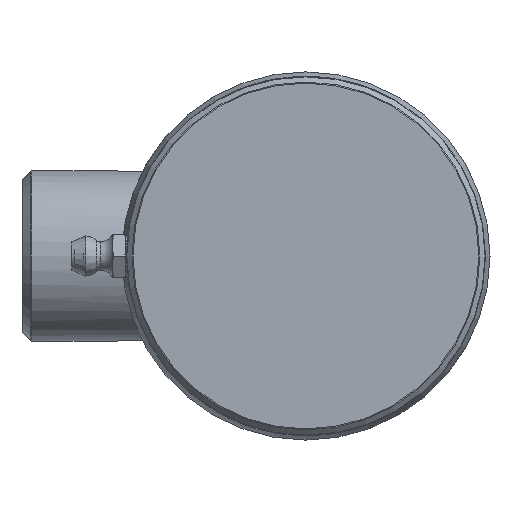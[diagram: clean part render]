
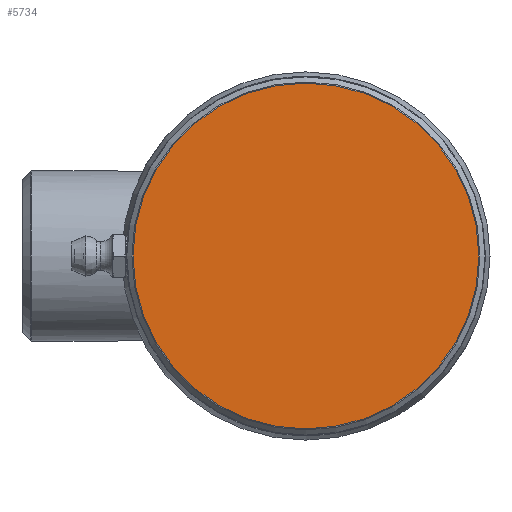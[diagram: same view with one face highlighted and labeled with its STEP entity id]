
A CAD part, left-side view. The second image highlights one B-rep face of the part: STEP entity #5734.
In plain terms, the highlighted planar face has unit normal (-1, 0, 0).
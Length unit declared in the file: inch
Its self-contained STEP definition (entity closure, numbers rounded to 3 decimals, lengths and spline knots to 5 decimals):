
#694=PLANE('',#6460);
#1339=FACE_OUTER_BOUND('',#1705,.T.);
#1705=EDGE_LOOP('',(#4057));
#2143=CIRCLE('',#6455,1.14336);
#2574=VERTEX_POINT('',#9177);
#3146=EDGE_CURVE('',#2574,#2574,#2143,.T.);
#4057=ORIENTED_EDGE('',*,*,#3146,.F.);
#5734=ADVANCED_FACE('',(#1339),#694,.F.);
#6455=AXIS2_PLACEMENT_3D('',#9179,#7303,#7304);
#6460=AXIS2_PLACEMENT_3D('',#9187,#7314,#7315);
#7303=DIRECTION('center_axis',(1.,0.,0.));
#7304=DIRECTION('ref_axis',(0.,-1.,0.));
#7314=DIRECTION('center_axis',(1.,0.,0.));
#7315=DIRECTION('ref_axis',(0.,0.,-1.));
#9177=CARTESIAN_POINT('',(-1.,0.,1.14336));
#9179=CARTESIAN_POINT('Origin',(-1.,0.,0.));
#9187=CARTESIAN_POINT('Origin',(-1.,0.,0.));
